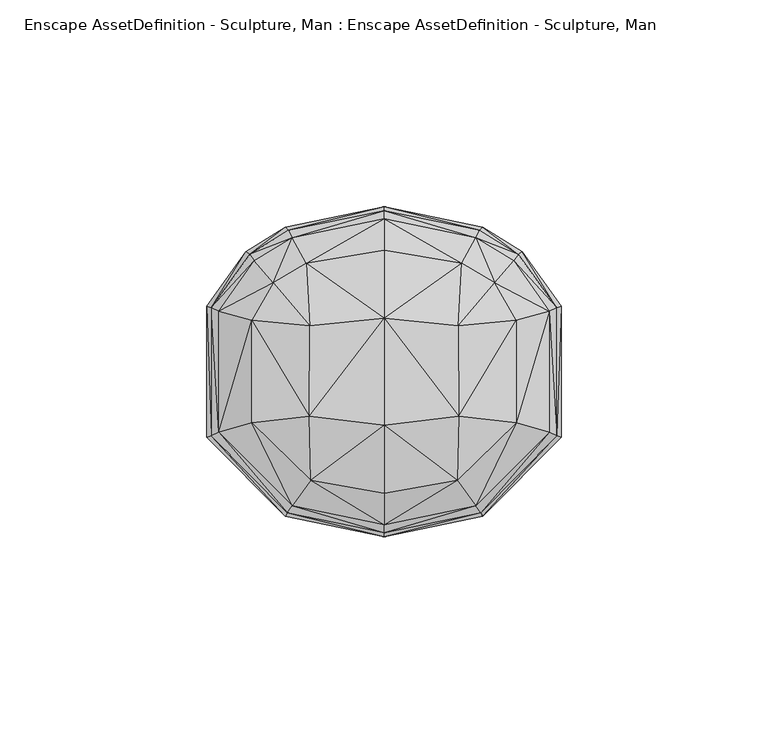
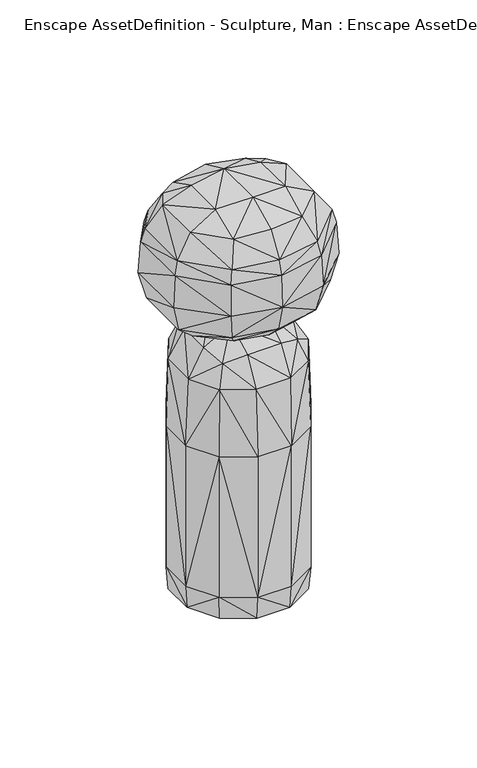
"""IFC4 building model written with IfcOpenShell, lengths in millimetres: geographic element geometry, Enscape AssetDefinition - Sculpture, Man : Enscape AssetDefinition - Sculpture, Man."""

from ifc_helpers import new_model, si_unit, origin, place, context, project, spatial, faceted_brep, source, transform, mapped, element, save


def enscape_assetdefinition_sculpture_man_enscape_320ed476(model_context):
    return source(origin(), model_context, "Body", "Brep", [
        faceted_brep([(0.0, -29.327346, 212.39838), (0.0, -12.9382527, 219.9999988), (-17.7585278, -26.2124483, 211.4634961), (17.7585278, -26.2124483, 211.4634961), (-18.0503745, -10.770251, 218.3820158), (0.0, 12.9382527, 219.9999988), (18.0503745, -10.770251, 218.3820158), (0.0, -36.9714759, 200.4647255), (22.1169796, -32.4173905, 199.9908835), (32.0156999, -12.3866303, 211.9204998), (17.9268997, 11.0572865, 218.4341252), (32.0156999, 12.3866303, 211.9204998), (39.9324335, -14.6187739, 200.4230469), (39.9324335, 14.6187739, 200.4230469), (23.3557224, -34.0329669, 192.8863525), (0.0, -38.9294103, 193.1854188), (41.7957604, -15.462243, 193.192631), (41.7957604, 15.462243, 193.192631), (31.3606486, 26.8771201, 199.8618096), (26.7969444, 21.5477198, 210.7314765), (18.7703688, 26.1667483, 211.0946774), (22.2180039, 32.4181914, 199.8746395), (32.4294157, 28.456619, 193.0683702), (42.818021, 15.8503018, 176.2190461), (33.4188081, 28.9825834, 176.2174517), (23.9001289, 34.8724276, 176.6656339), (23.1600888, 34.1845043, 192.8142011), (0.0, 38.9294103, 193.1854188), (0.0, 36.9714759, 200.4647255), (0.0, 39.8506485, 176.2206554), (21.7810348, 31.900242, 162.3771936), (30.6526814, 26.439352, 162.1719301), (23.8600392, 20.4340518, 154.0788263), (30.1635973, 11.3074407, 153.9016217), (39.253328, 14.4215375, 162.1254385), (16.3578242, 24.2408831, 153.9208591), (0.0, 36.3741517, 162.1639132), (22.6822309, 10.1256231, 151.5917033), (14.682916, 9.3727568, 150.1974314), (39.253328, -14.4215375, 162.1254385), (30.1635973, -11.3074407, 153.9016217), (22.6822309, -10.1256231, 151.5917033), (0.0, 10.9049501, 149.7596502), (0.0, -10.9049501, 149.7596502), (14.7069693, -9.7038895, 150.3176838), (14.1112497, -18.7030192, 151.7344266), (16.3955074, -23.8536261, 153.7508816), (21.7810348, -31.900242, 162.3771936), (0.0, -27.5874939, 153.746888), (0.0, -36.3741517, 162.1639132), (0.0, -20.4476826, 151.2701958), (-16.3955074, -23.8536261, 153.7508816), (-14.1112497, -18.7030192, 151.7344266), (-21.7810348, -31.900242, 162.3771936), (0.0, -39.8506485, 176.2206554), (23.9001289, -34.8724276, 176.6656339), (42.818021, -15.8503018, 176.2190461), (-23.3557224, -34.0329669, 192.8863525), (-22.1169796, -32.4173905, 199.9908835), (-41.7957604, -15.462243, 193.192631), (-39.9324335, -14.6187739, 200.4230469), (-23.9001289, -34.8724276, 176.6656339), (-32.0156999, -12.3866303, 211.9204998), (-32.0156999, 12.3866303, 211.9204998), (-17.9268997, 11.0572865, 218.4341252), (-26.7969444, 21.5477198, 210.7314765), (-39.9324335, 14.6187739, 200.4230469), (-18.7703688, 26.1667483, 211.0946774), (0.0, 29.327346, 212.39838), (-22.2180039, 32.4181914, 199.8746395), (-31.3606486, 26.8771201, 199.8618096), (-41.7957604, 15.462243, 193.192631), (-32.4294157, 28.456619, 193.0683702), (-23.1600888, 34.1845043, 192.8142011), (-23.9001289, 34.8724276, 176.6656339), (-33.4188081, 28.9825834, 176.2174517), (-21.7810348, 31.900242, 162.3771936), (-30.6526814, 26.439352, 162.1719301), (-23.8600392, 20.4340518, 154.0788263), (-16.3578242, 24.2408831, 153.9208591), (-30.1635973, 11.3074407, 153.9016217), (-39.253328, 14.4215375, 162.1254385), (-42.818021, 15.8503018, 176.2190461), (-42.818021, -15.8503018, 176.2190461), (-39.253328, -14.4215375, 162.1254385), (-30.1635973, -11.3074407, 153.9016217), (-22.6822309, 10.1256231, 151.5917033), (-22.6822309, -10.1256231, 151.5917033), (-14.682916, 9.3727568, 150.1974314), (-14.7069693, -9.7038895, 150.3176838), (0.0, 27.5874939, 153.746888)], [[[0, 1, 2]], [[0, 3, 1]], [[2, 1, 4]], [[5, 4, 1]], [[1, 3, 6]], [[6, 5, 1]], [[0, 2, 7]], [[7, 3, 0]], [[8, 3, 7]], [[3, 9, 6]], [[8, 9, 3]], [[10, 5, 6]], [[9, 11, 6]], [[6, 11, 10]], [[12, 9, 8]], [[11, 9, 13]], [[13, 9, 12]], [[8, 14, 12]], [[14, 8, 15]], [[15, 8, 7]], [[12, 14, 16]], [[16, 13, 12]], [[17, 13, 16]], [[18, 19, 13]], [[13, 17, 18]], [[13, 19, 11]], [[19, 10, 11]], [[20, 10, 19]], [[20, 19, 21]], [[21, 19, 18]], [[18, 22, 21]], [[18, 17, 22]], [[23, 24, 17]], [[16, 23, 17]], [[17, 24, 22]], [[24, 25, 22]], [[22, 25, 26]], [[21, 22, 26]], [[26, 27, 21]], [[28, 20, 21]], [[21, 27, 28]], [[27, 26, 29]], [[29, 26, 25]], [[30, 25, 31]], [[25, 30, 29]], [[31, 25, 24]], [[31, 32, 30]], [[32, 31, 33]], [[31, 24, 34]], [[33, 31, 34]], [[30, 35, 36]], [[30, 32, 35]], [[29, 30, 36]], [[33, 37, 32]], [[37, 38, 32]], [[32, 38, 35]], [[34, 39, 33]], [[33, 39, 40]], [[40, 37, 33]], [[37, 41, 38]], [[41, 37, 40]], [[42, 38, 43]], [[38, 41, 44]], [[43, 38, 44]], [[42, 35, 38]], [[44, 41, 45]], [[45, 41, 46]], [[46, 41, 40]], [[46, 40, 47]], [[47, 40, 39]], [[48, 46, 49]], [[49, 46, 47]], [[48, 45, 46]], [[44, 45, 43]], [[50, 45, 48]], [[43, 45, 50]], [[51, 52, 48]], [[49, 51, 48]], [[48, 52, 50]], [[53, 51, 49]], [[49, 47, 54]], [[54, 53, 49]], [[47, 39, 55]], [[54, 47, 55]], [[39, 34, 56]], [[55, 39, 56]], [[56, 16, 55]], [[55, 14, 54]], [[55, 16, 14]], [[56, 23, 16]], [[56, 34, 23]], [[34, 24, 23]], [[54, 14, 15]], [[15, 57, 54]], [[7, 58, 15]], [[15, 58, 57]], [[59, 57, 60]], [[57, 59, 61]], [[60, 57, 58]], [[54, 57, 61]], [[2, 62, 58]], [[7, 2, 58]], [[58, 62, 60]], [[62, 4, 63]], [[2, 4, 62]], [[62, 63, 60]], [[64, 4, 5]], [[63, 4, 64]], [[63, 65, 66]], [[64, 65, 63]], [[60, 63, 66]], [[67, 65, 64]], [[5, 67, 64]], [[68, 67, 5]], [[10, 20, 5]], [[5, 20, 68]], [[69, 67, 28]], [[28, 67, 68]], [[69, 65, 67]], [[70, 65, 69]], [[66, 65, 70]], [[66, 71, 60]], [[70, 71, 66]], [[72, 71, 70]], [[69, 72, 70]], [[73, 72, 69]], [[73, 69, 27]], [[27, 69, 28]], [[68, 20, 28]], [[27, 29, 73]], [[73, 74, 72]], [[73, 29, 74]], [[72, 75, 71]], [[72, 74, 75]], [[76, 77, 74]], [[74, 77, 75]], [[29, 76, 74]], [[36, 76, 29]], [[77, 76, 78]], [[36, 79, 76]], [[78, 76, 79]], [[78, 80, 77]], [[77, 81, 75]], [[77, 80, 81]], [[71, 75, 82]], [[75, 81, 82]], [[82, 81, 83]], [[83, 81, 84]], [[80, 84, 81]], [[85, 84, 80]], [[80, 86, 85]], [[78, 86, 80]], [[83, 84, 61]], [[84, 85, 53]], [[61, 84, 53]], [[83, 59, 82]], [[61, 59, 83]], [[82, 59, 71]], [[60, 71, 59]], [[61, 53, 54]], [[53, 85, 51]], [[85, 87, 51]], [[85, 86, 87]], [[86, 88, 87]], [[78, 88, 86]], [[52, 87, 89]], [[87, 88, 89]], [[51, 87, 52]], [[88, 79, 42]], [[79, 88, 78]], [[89, 88, 43]], [[43, 88, 42]], [[43, 52, 89]], [[50, 52, 43]], [[90, 35, 42]], [[42, 79, 90]], [[90, 79, 36]], [[36, 35, 90]]]),
        faceted_brep([(-23.8119327, -23.8111299, 92.9009318), (-23.0213813, -22.9997337, 128.772378), (-32.5280353, -8.7128952, 92.9009318), (-19.4422565, -19.4422565, 139.5666748), (-31.1626121, -9.0608653, 129.1019022), (-8.9871027, -31.1626121, 129.1764677), (-8.7128952, -32.5280353, 92.9009318), (-8.6591765, -23.0213813, 143.1241482), (-9.0608653, -8.9871027, 151.2870342), (-22.9997337, -8.6591765, 143.1457996), (-22.9997337, 8.6591765, 143.1457996), (-31.1626121, 9.0608653, 129.1019022), (-9.0608653, 8.9871027, 151.2870342), (9.0608653, -8.9871027, 151.2870342), (8.6591765, -23.0213813, 143.1241482), (8.9871027, -31.1626121, 129.1764677), (19.4422565, -19.4422565, 139.5666748), (22.9997337, -8.6591765, 143.1457996), (22.9997337, 8.6591765, 143.1457996), (9.0608653, 8.9871027, 151.2870342), (23.0213813, -22.9997337, 128.772378), (31.1626121, -9.0608653, 129.1019022), (8.7128952, -32.5280353, 92.9009318), (32.5280353, -8.7128952, 92.9009318), (23.8119327, -23.8111299, 92.9009318), (31.1626121, 9.0608653, 129.1019022), (32.5280353, 8.7128952, 92.9009318), (32.5272344, 8.7153008, 16.0050429), (32.5272344, -8.7153008, 16.0050429), (23.8111299, -23.8111299, 16.0050429), (8.7153008, -32.5272344, 16.0050429), (31.4969495, -8.4394896, 3.9455374), (8.4394896, -31.4969495, 3.9455374), (23.0574626, -23.0574626, 3.9455374), (-8.7153008, -32.5272344, 16.0050429), (-8.4394896, -31.4969495, 3.9455374), (6.6555389, -24.8398092, 0.0), (-6.6555389, -24.8398092, 0.0), (18.1842688, -18.1842688, 0.0), (24.8398092, -6.6555389, 0.0), (24.8398092, 6.6555389, 0.0), (31.4969495, 8.4394896, 3.9455374), (23.8111299, 23.8111299, 16.0050429), (23.0574626, 23.0574626, 3.9455374), (23.8119327, 23.8111299, 92.9009318), (8.4394896, 31.4969495, 3.9455374), (8.7153008, 32.5272344, 16.0050429), (6.6555389, 24.8398092, 0.0), (18.1842688, 18.1842688, 0.0), (-6.6555389, 24.8398092, 0.0), (-8.4394896, 31.4969495, 3.9455374), (-18.1842688, 18.1842688, 0.0), (-23.0574626, 23.0574626, 3.9455374), (-23.8111299, 23.8111299, 16.0050429), (-8.7153008, 32.5272344, 16.0050429), (-31.4969495, 8.4394896, 3.9455374), (-24.8398092, 6.6555389, 0.0), (-24.8398092, -6.6555389, 0.0), (-31.4969495, -8.4394896, 3.9455374), (-32.5272344, 8.7153008, 16.0050429), (-23.8119327, 23.8111299, 92.9009318), (-8.7128952, 32.5280353, 92.9009318), (-23.0213813, 22.9997337, 128.772378), (-32.5280353, 8.7128952, 92.9009318), (-32.5272344, -8.7153008, 16.0050429), (-19.4422565, 19.4422565, 139.5666748), (-8.9871027, 31.1626121, 129.1764677), (-8.6591765, 23.0213813, 143.1241482), (8.9871027, 31.1626121, 129.1764677), (8.6591765, 23.0213813, 143.1241482), (19.4422565, 19.4422565, 139.5666748), (8.7128952, 32.5280353, 92.9009318), (23.0213813, 22.9997337, 128.772378), (-23.8111299, -23.8111299, 16.0050429), (-23.0574626, -23.0574626, 3.9455374), (-18.1842688, -18.1842688, 0.0)], [[[0, 1, 2]], [[1, 3, 4]], [[5, 1, 6]], [[2, 1, 4]], [[6, 1, 0]], [[5, 3, 1]], [[7, 8, 3]], [[7, 3, 5]], [[4, 3, 9]], [[3, 8, 9]], [[9, 10, 4]], [[4, 11, 2]], [[4, 10, 11]], [[8, 12, 9]], [[9, 12, 10]], [[8, 13, 12]], [[7, 14, 8]], [[8, 14, 13]], [[14, 7, 15]], [[15, 7, 5]], [[14, 15, 16]], [[16, 13, 14]], [[17, 18, 13]], [[17, 13, 16]], [[12, 13, 19]], [[13, 18, 19]], [[20, 21, 16]], [[16, 21, 17]], [[16, 15, 20]], [[15, 5, 22]], [[15, 22, 20]], [[21, 20, 23]], [[20, 22, 24]], [[23, 20, 24]], [[25, 18, 21]], [[21, 18, 17]], [[23, 25, 21]], [[26, 25, 23]], [[26, 23, 27]], [[23, 24, 28]], [[27, 23, 28]], [[29, 24, 30]], [[28, 24, 29]], [[30, 24, 22]], [[31, 27, 28]], [[29, 31, 28]], [[30, 32, 29]], [[33, 31, 29]], [[29, 32, 33]], [[30, 22, 34]], [[34, 32, 30]], [[35, 32, 34]], [[36, 32, 37]], [[37, 32, 35]], [[36, 33, 32]], [[38, 33, 36]], [[38, 39, 33]], [[33, 39, 31]], [[37, 38, 36]], [[37, 39, 38]], [[40, 41, 39]], [[39, 41, 31]], [[37, 40, 39]], [[41, 27, 31]], [[27, 41, 42]], [[42, 41, 43]], [[40, 43, 41]], [[42, 44, 27]], [[27, 44, 26]], [[43, 45, 42]], [[46, 44, 42]], [[42, 45, 46]], [[45, 43, 47]], [[48, 43, 40]], [[47, 43, 48]], [[47, 49, 45]], [[45, 50, 46]], [[45, 49, 50]], [[40, 49, 47]], [[40, 47, 48]], [[51, 52, 49]], [[49, 52, 50]], [[40, 51, 49]], [[52, 53, 50]], [[50, 53, 54]], [[46, 50, 54]], [[52, 55, 53]], [[55, 52, 56]], [[56, 52, 51]], [[40, 37, 51]], [[51, 57, 56]], [[51, 37, 57]], [[57, 55, 56]], [[58, 55, 57]], [[55, 58, 59]], [[53, 55, 59]], [[53, 60, 54]], [[59, 60, 53]], [[54, 60, 61]], [[61, 46, 54]], [[60, 62, 61]], [[63, 60, 59]], [[63, 62, 60]], [[59, 58, 64]], [[64, 63, 59]], [[11, 62, 63]], [[2, 63, 64]], [[2, 11, 63]], [[62, 65, 66]], [[11, 65, 62]], [[61, 62, 66]], [[10, 65, 11]], [[67, 65, 12]], [[66, 65, 67]], [[12, 65, 10]], [[67, 68, 66]], [[68, 61, 66]], [[69, 68, 67]], [[12, 69, 67]], [[19, 69, 12]], [[70, 68, 69]], [[19, 70, 69]], [[71, 61, 68]], [[72, 68, 70]], [[72, 71, 68]], [[71, 46, 61]], [[44, 71, 72]], [[71, 44, 46]], [[44, 72, 26]], [[26, 72, 25]], [[70, 25, 72]], [[18, 25, 70]], [[18, 70, 19]], [[64, 0, 2]], [[73, 0, 64]], [[6, 0, 34]], [[34, 0, 73]], [[64, 58, 73]], [[74, 35, 73]], [[73, 35, 34]], [[73, 58, 74]], [[34, 22, 6]], [[22, 5, 6]], [[75, 37, 74]], [[75, 74, 57]], [[74, 37, 35]], [[57, 74, 58]], [[57, 37, 75]]]),
    ])


if __name__ == "__main__":
    model = new_model("IFC4")
    model_context = context("Model", 3, world=origin())
    ifc_project = project(units=[si_unit("LENGTHUNIT", "METRE", prefix="MILLI")], contexts=[model_context])
    site = spatial("IfcSite", under=ifc_project)
    building = spatial("IfcBuilding", under=site)
    placement = place(None, origin())
    enscape_assetdefinition_sculpture_man_enscape_shape = enscape_assetdefinition_sculpture_man_enscape_320ed476(model_context)
    element("IfcGeographicElement", 1, ObjectType="Enscape AssetDefinition - Sculpture, Man : Enscape AssetDefinition - Sculpture, Man", at=placement, inside=building, context=model_context, shape_type="MappedRepresentation", body=[
        mapped(enscape_assetdefinition_sculpture_man_enscape_shape, transform((0.0, 0.0, 0.0), x_axis=(1.0, 0.0, 0.0), y_axis=(0.0, 1.0, 0.0), z_axis=(0.0, 0.0, 1.0))),
    ])
    save(model, "model.ifc")
